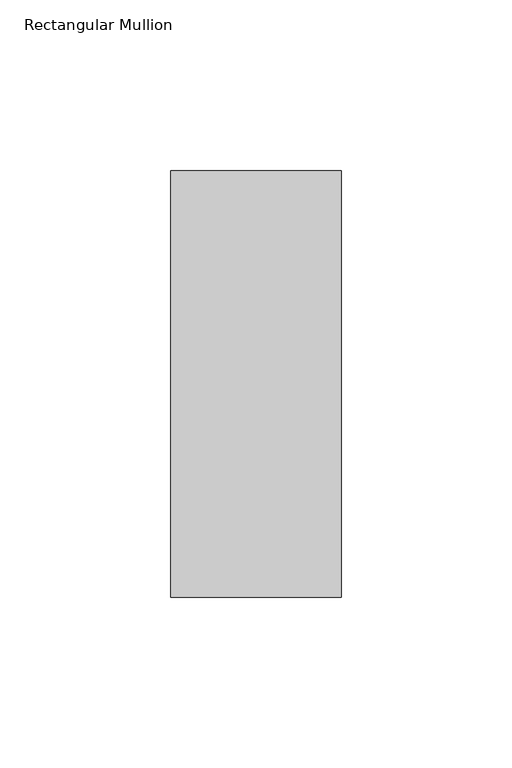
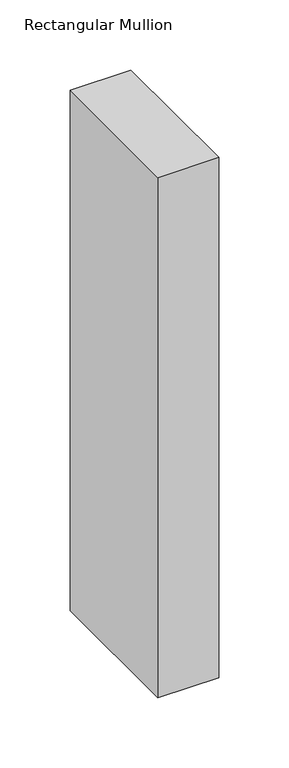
"""IFC4 building model written with IfcOpenShell, lengths in millimetres: member geometry, Rectangular Mullion : DucoSun Cubic Design profile 50x125 for louvre 500."""

from ifc_helpers import new_model, si_unit, frame, origin, place, context, project, spatial, polyline, outline, extrude, source, transform, mapped, element, save


def rectangular_mullion_ad60da95(model_context):
    return source(origin(), model_context, "Body", "SweptSolid", [
        extrude(outline(polyline([(0.0, -187.5), (0.0, -312.5), (-50.0, -312.5), (-50.0, -187.5), (0.0, -187.5)])), frame((0.0, 0.0, -452.4), z_axis=(0.0, 0.0, 1.0), x_axis=(1.0, 0.0, 0.0)), (0.0, 0.0, 1.0), 452.4),
    ])


if __name__ == "__main__":
    model = new_model("IFC4")
    model_context = context("Model", 3, world=origin())
    ifc_project = project(units=[si_unit("LENGTHUNIT", "METRE", prefix="MILLI")], contexts=[model_context])
    site = spatial("IfcSite", under=ifc_project)
    building = spatial("IfcBuilding", under=site)
    placement = place(None, origin())
    rectangular_mullion_shape = rectangular_mullion_ad60da95(model_context)
    element("IfcMember", 1, ObjectType="Rectangular Mullion : DucoSun Cubic Design profile 50x125 for louvre 500", at=placement, inside=building, context=model_context, shape_type="MappedRepresentation", body=[
        mapped(rectangular_mullion_shape, transform((0.0, 0.0, 0.0), x_axis=(1.0, 0.0, 0.0), y_axis=(0.0, 1.0, 0.0), z_axis=(0.0, 0.0, 1.0))),
    ])
    save(model, "model.ifc")
